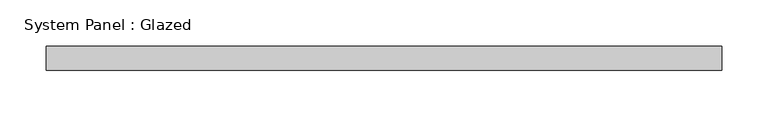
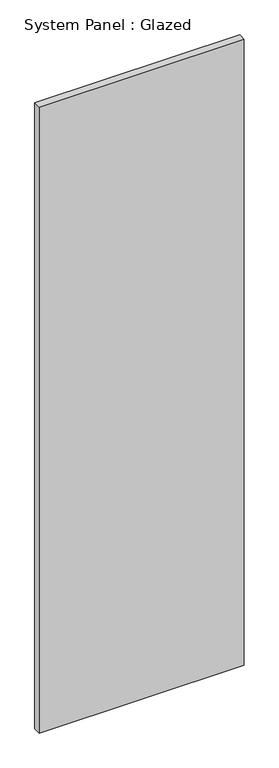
"""IFC4 building model written with IfcOpenShell, lengths in millimetres: plate geometry, System Panel : Glazed."""

import ifcopenshell
import ifcopenshell.guid

model = None  # the IFC model being written
_history = None  # IfcOwnerHistory: only IFC2X3 demands one
_inside = {}  # id of a spatial element -> (the spatial element, [elements in it])
_under = {}  # id of a project, library or spatial element -> (it, [spatial elements below it])
_declared = {}  # id of a project -> (the project, [libraries it declares])
_typed = {}  # id of a type object -> (the type object, [elements of that type])
_made_of = {}  # id of a material, layer set ... -> (it, [elements and type objects made of it])


def new_model(schema):
    """Start an empty IFC model of exactly this schema.

    Asked for "IFC4X3", IfcOpenShell would pick the latest addendum, in which some entities
    have other attributes; the version numbers below select the first issue.
    IFC2X3 requires an IfcOwnerHistory on every rooted entity: one is made here for all.
    """
    global model, _history
    if schema == "IFC4X3":
        model = ifcopenshell.file(schema_version=(4, 3, 0, 0))
    else:
        model = ifcopenshell.file(schema=schema)
    _inside.clear()
    _under.clear()
    _declared.clear()
    _typed.clear()
    _made_of.clear()
    _history = None
    if model.schema == "IFC2X3":
        org = make("IfcOrganization", Name="unknown")
        user = make(
            "IfcPersonAndOrganization",
            ThePerson=make("IfcPerson", FamilyName="unknown"),
            TheOrganization=org,
        )
        app = make(
            "IfcApplication",
            ApplicationDeveloper=org,
            Version="unknown",
            ApplicationFullName="unknown",
            ApplicationIdentifier="unknown",
        )
        _history = make(
            "IfcOwnerHistory",
            OwningUser=user,
            OwningApplication=app,
            ChangeAction="ADDED",
            CreationDate=0,
        )
    return model


def make(cls, **values):
    """One entity of the class cls with the attributes given. An attribute that is None is left unset."""
    return model.create_entity(
        cls, **{name: value for name, value in values.items() if value is not None}
    )


def rooted(cls, **values):
    """An entity with a GlobalId (a new one), such as an element, a storey or a relation."""
    return make(cls, GlobalId=ifcopenshell.guid.new(), OwnerHistory=_history, **values)


def si_unit(unit_type, name, prefix=None):
    """IfcSIUnit, for example si_unit("LENGTHUNIT", "METRE", prefix="MILLI")."""
    return make("IfcSIUnit", UnitType=unit_type, Prefix=prefix, Name=name)


def assignment(units):
    """IfcUnitAssignment: the units of a project."""
    return None if units is None else make("IfcUnitAssignment", Units=units)


def point(xyz):
    """IfcCartesianPoint."""
    return None if xyz is None else make("IfcCartesianPoint", Coordinates=xyz)


def direction(xyz):
    """IfcDirection."""
    return None if xyz is None else make("IfcDirection", DirectionRatios=xyz)


def frame(location, z_axis=None, x_axis=None):
    """IfcAxis2Placement3D, a coordinate frame: its origin and axes. An axis left out is left unset."""
    return make(
        "IfcAxis2Placement3D",
        Location=point(location),
        Axis=direction(z_axis),
        RefDirection=direction(x_axis),
    )


def origin():
    """The frame at (0, 0, 0) with its axes left unset."""
    return frame((0.0, 0.0, 0.0))


def origin_with_axes():
    """The frame at (0, 0, 0) with the z axis (0, 0, 1) and the x axis (1, 0, 0) written out."""
    return frame((0.0, 0.0, 0.0), z_axis=(0.0, 0.0, 1.0), x_axis=(1.0, 0.0, 0.0))


def place(relative_to, where):
    """IfcLocalPlacement: puts the frame where relative to a parent placement (None: the world)."""
    return make(
        "IfcLocalPlacement", PlacementRelTo=relative_to, RelativePlacement=where
    )


def context(
    kind, dimensions, precision=None, world=None, true_north=None, identifier=None
):
    """IfcGeometricRepresentationContext, for example the 3D "Model" context."""
    return make(
        "IfcGeometricRepresentationContext",
        ContextIdentifier=identifier,
        ContextType=kind,
        CoordinateSpaceDimension=dimensions,
        Precision=precision,
        WorldCoordinateSystem=world,
        TrueNorth=true_north,
    )


def project(units=None, contexts=None):
    """IfcProject with its units and contexts."""
    return rooted(
        "IfcProject",
        Name="project",
        RepresentationContexts=contexts,
        UnitsInContext=assignment(units),
    )


def spatial(cls, under=None, at=None, **own):
    """A site, building, storey or space (cls), placed at a placement, below another one or the project."""
    s = rooted(cls, ObjectPlacement=at, **own)
    if under is not None:
        _under.setdefault(under.id(), (under, []))[1].append(s)
    return s


def polyline(points):
    """IfcPolyline through the points."""
    return make("IfcPolyline", Points=[point(p) for p in points])


def outline(outer, holes=None, kind="AREA"):
    """IfcArbitraryClosedProfileDef: a profile drawn as a closed curve; with holes, ...WithVoids."""
    if holes is None:
        return make("IfcArbitraryClosedProfileDef", ProfileType=kind, OuterCurve=outer)
    return make(
        "IfcArbitraryProfileDefWithVoids",
        ProfileType=kind,
        OuterCurve=outer,
        InnerCurves=holes,
    )


def extrude(swept, where, along, depth):
    """IfcExtrudedAreaSolid: the profile swept, set in the frame where, extruded along a direction by depth."""
    return make(
        "IfcExtrudedAreaSolid",
        SweptArea=swept,
        Position=where,
        ExtrudedDirection=direction(along),
        Depth=depth,
    )


def shape(context_of_items, identifier, shape_type, items):
    """IfcShapeRepresentation: the items that make up one representation, for example the "Body"."""
    return make(
        "IfcShapeRepresentation",
        ContextOfItems=context_of_items,
        RepresentationIdentifier=identifier,
        RepresentationType=shape_type,
        Items=items,
    )


def source(mapping_origin, context_of_items, identifier, shape_type, items):
    """IfcRepresentationMap: a shape defined once, which mapped items show again and again."""
    return make(
        "IfcRepresentationMap",
        MappingOrigin=mapping_origin,
        MappedRepresentation=shape(context_of_items, identifier, shape_type, items),
    )


def transform(
    local_origin,
    x_axis=None,
    y_axis=None,
    z_axis=None,
    scale=None,
    scale2=None,
    scale3=None,
    uniform=True,
):
    """IfcCartesianTransformationOperator3D, or its non-uniform kind. x_axis, y_axis, z_axis: its Axis1, 2, 3."""
    if uniform:
        return make(
            "IfcCartesianTransformationOperator3D",
            Axis1=direction(x_axis),
            Axis2=direction(y_axis),
            LocalOrigin=point(local_origin),
            Scale=scale,
            Axis3=direction(z_axis),
        )
    return make(
        "IfcCartesianTransformationOperator3DnonUniform",
        Axis1=direction(x_axis),
        Axis2=direction(y_axis),
        LocalOrigin=point(local_origin),
        Scale=scale,
        Axis3=direction(z_axis),
        Scale2=scale2,
        Scale3=scale3,
    )


def mapped(mapping_source, mapping_target):
    """IfcMappedItem: shows the shape of a source again, moved by a transform."""
    return make(
        "IfcMappedItem", MappingSource=mapping_source, MappingTarget=mapping_target
    )


def made_of(thing, what):
    """Note that an element or type object is made of a material, layer set ...; save() writes the relation."""
    if what is not None:
        _made_of.setdefault(what.id(), (what, []))[1].append(thing)
    return thing


def element(
    cls,
    number,
    at=None,
    inside=None,
    cuts=None,
    type_object=None,
    material=None,
    context=None,
    identifier="Body",
    shape_type=None,
    held_by="IfcProductDefinitionShape",
    body=None,
    shapes=None,
    **own,
):
    """One element of the class cls, such as IfcWall. Its Tag is "e" and its number.

    at: its placement. inside: the storey or other place that contains it. cuts: it is an
    opening in that element (IfcRelVoidsElement). A single representation is given by context,
    identifier, shape_type and body (its items); several are given by shapes. held_by: the class
    of the entity that holds the representations. save() writes the other relations.
    """
    e = rooted(cls, Tag="e%d" % number, ObjectPlacement=at, **own)
    if body is not None:
        shapes = [shape(context, identifier, shape_type, body)]
    if shapes is not None:
        e.Representation = make(held_by, Representations=shapes)
    if inside is not None:
        _inside.setdefault(inside.id(), (inside, []))[1].append(e)
    if cuts is not None:
        rooted(
            "IfcRelVoidsElement", RelatingBuildingElement=cuts, RelatedOpeningElement=e
        )
    if type_object is not None:
        _typed.setdefault(type_object.id(), (type_object, []))[1].append(e)
    return made_of(e, material)


def aggregate(whole, parts):
    """IfcRelAggregates: a whole, such as a stair, and the parts it consists of."""
    return rooted("IfcRelAggregates", RelatingObject=whole, RelatedObjects=parts)


def save(model, path):
    """Write the relations noted so far, then the file.

    IfcRelAggregates (storeys below a building ...), IfcRelContainedInSpatialStructure (elements
    in a storey), IfcRelDefinesByType, IfcRelAssociatesMaterial and IfcRelDeclares: one each for
    every whole, place, type object, material and project.
    """
    for whole, parts in _under.values():
        aggregate(whole, parts)
    for where, things in _inside.values():
        rooted(
            "IfcRelContainedInSpatialStructure",
            RelatedElements=things,
            RelatingStructure=where,
        )
    for kind, things in _typed.values():
        rooted("IfcRelDefinesByType", RelatedObjects=things, RelatingType=kind)
    for what, things in _made_of.values():
        rooted("IfcRelAssociatesMaterial", RelatedObjects=things, RelatingMaterial=what)
    for by, libraries in _declared.values():
        rooted("IfcRelDeclares", RelatingContext=by, RelatedDefinitions=libraries)
    model.write(path)


def system_panel_glazed_4e55321f(model_context):
    return source(origin(), model_context, "Body", "SweptSolid", [
        extrude(outline(polyline([(363.5420701, 19.05), (-363.5420701, 19.05), (-363.5420701, 44.45), (363.5420701, 44.45), (363.5420701, 19.05)])), origin_with_axes(), (0.0, 0.0, 1.0), 2343.15),
    ])


if __name__ == "__main__":
    model = new_model("IFC4")
    model_context = context("Model", 3, world=origin())
    ifc_project = project(units=[si_unit("LENGTHUNIT", "METRE", prefix="MILLI")], contexts=[model_context])
    site = spatial("IfcSite", under=ifc_project)
    building = spatial("IfcBuilding", under=site)
    placement = place(None, origin())
    system_panel_glazed_shape = system_panel_glazed_4e55321f(model_context)
    element("IfcPlate", 1, ObjectType="System Panel : Glazed", at=placement, inside=building, context=model_context, shape_type="MappedRepresentation", body=[
        mapped(system_panel_glazed_shape, transform((0.0, 0.0, 0.0), x_axis=(1.0, 0.0, 0.0), y_axis=(0.0, 1.0, 0.0), z_axis=(0.0, 0.0, 1.0))),
    ])
    save(model, "model.ifc")
